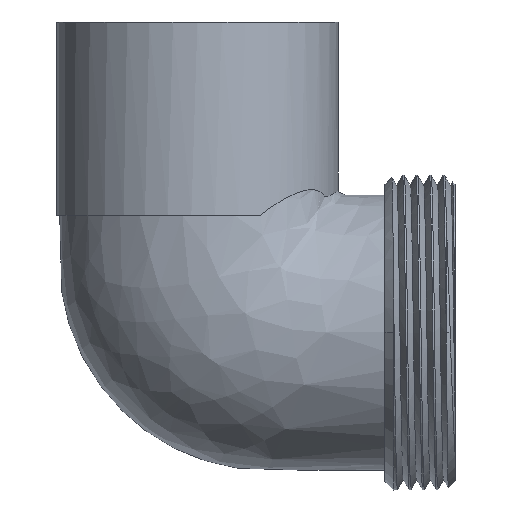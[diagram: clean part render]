
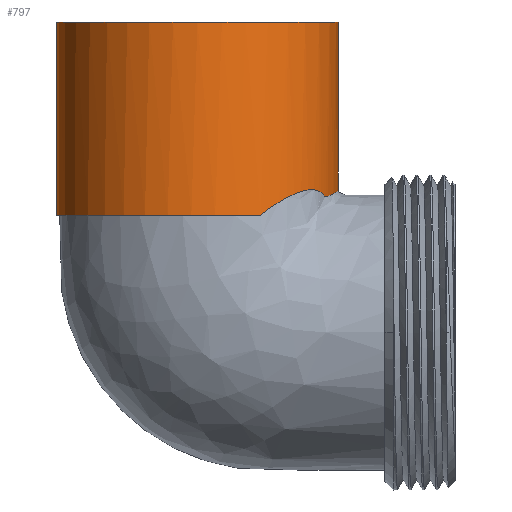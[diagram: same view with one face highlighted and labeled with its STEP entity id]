
A CAD part, top view. The second image highlights one B-rep face of the part: STEP entity #797.
In plain terms, the highlighted cylindrical face has radius 24 mm (diameter 48 mm), a partial arc.
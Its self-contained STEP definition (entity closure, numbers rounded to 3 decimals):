
#728 = ORIENTED_EDGE ( 'NONE', *, *, #729, .T. ) ;
#729 = EDGE_CURVE ( 'NONE', #798, #735, #1795, .T. ) ;
#730 = ORIENTED_EDGE ( 'NONE', *, *, #744, .F. ) ;
#731 = VERTEX_POINT ( 'NONE', #1791 ) ;
#732 = VERTEX_POINT ( 'NONE', #1790 ) ;
#733 = ORIENTED_EDGE ( 'NONE', *, *, #734, .F. ) ;
#734 = EDGE_CURVE ( 'NONE', #798, #732, #3237, .T. ) ;
#735 = VERTEX_POINT ( 'NONE', #3238 ) ;
#736 = ORIENTED_EDGE ( 'NONE', *, *, #737, .T. ) ;
#737 = EDGE_CURVE ( 'NONE', #747, #732, #3247, .T. ) ;
#744 = EDGE_CURVE ( 'NONE', #731, #735, #2000, .T. ) ;
#745 = ORIENTED_EDGE ( 'NONE', *, *, #746, .F. ) ;
#746 = EDGE_CURVE ( 'NONE', #747, #731, #2001, .T. ) ;
#747 = VERTEX_POINT ( 'NONE', #1993 ) ;
#797 = ADVANCED_FACE ( 'NONE', ( #2143 ), #2142, .T. ) ;
#798 = VERTEX_POINT ( 'NONE', #2197 ) ;
#938 = EDGE_LOOP ( 'NONE', ( #733, #728, #730, #745, #736 ) ) ;
#1790 = CARTESIAN_POINT ( 'NONE',  ( 10.79, 20., 21.438 ) ) ;
#1791 = CARTESIAN_POINT ( 'NONE',  ( -24., 53., 0. ) ) ;
#1792 = DIRECTION ( 'NONE',  ( 0., 1., 0. ) ) ;
#1793 = VECTOR ( 'NONE', #1792, 1000. ) ;
#1794 = CARTESIAN_POINT ( 'NONE',  ( 24., 53., 0. ) ) ;
#1795 = LINE ( 'NONE', #1794, #1793 ) ;
#1876 = CARTESIAN_POINT ( 'NONE',  ( 0., 53., 0. ) ) ;
#1993 = CARTESIAN_POINT ( 'NONE',  ( -24., 20., 0. ) ) ;
#1994 = DIRECTION ( 'NONE',  ( 0., 1., 0. ) ) ;
#1995 = VECTOR ( 'NONE', #1994, 1000. ) ;
#1996 = CARTESIAN_POINT ( 'NONE',  ( -24., 53., 0. ) ) ;
#1997 = DIRECTION ( 'NONE',  ( -1., 0., 0. ) ) ;
#1998 = DIRECTION ( 'NONE',  ( 0., 1., 0. ) ) ;
#1999 = AXIS2_PLACEMENT_3D ( 'NONE', #1876, #1998, #1997 ) ;
#2000 = CIRCLE ( 'NONE', #1999, 24. ) ;
#2001 = LINE ( 'NONE', #1996, #1995 ) ;
#2142 = CYLINDRICAL_SURFACE ( 'NONE', #2156, 24. ) ;
#2143 = FACE_OUTER_BOUND ( 'NONE', #938, .T. ) ;
#2153 = DIRECTION ( 'NONE',  ( -1., 0., 0. ) ) ;
#2154 = DIRECTION ( 'NONE',  ( 0., 1., 0. ) ) ;
#2155 = CARTESIAN_POINT ( 'NONE',  ( 0., 53., 0. ) ) ;
#2156 = AXIS2_PLACEMENT_3D ( 'NONE', #2155, #2154, #2153 ) ;
#2197 = CARTESIAN_POINT ( 'NONE',  ( 24., 24.178, 0. ) ) ;
#3194 = CARTESIAN_POINT ( 'NONE',  ( 13.683, 22.13, 19.724 ) ) ;
#3195 = CARTESIAN_POINT ( 'NONE',  ( 14.101, 22.389, 19.428 ) ) ;
#3196 = CARTESIAN_POINT ( 'NONE',  ( 14.927, 22.867, 18.801 ) ) ;
#3197 = CARTESIAN_POINT ( 'NONE',  ( 15.334, 23.087, 18.471 ) ) ;
#3198 = CARTESIAN_POINT ( 'NONE',  ( 16.135, 23.486, 17.775 ) ) ;
#3199 = CARTESIAN_POINT ( 'NONE',  ( 16.529, 23.664, 17.409 ) ) ;
#3200 = CARTESIAN_POINT ( 'NONE',  ( 17.111, 23.895, 16.832 ) ) ;
#3201 = CARTESIAN_POINT ( 'NONE',  ( 17.303, 23.966, 16.634 ) ) ;
#3202 = CARTESIAN_POINT ( 'NONE',  ( 17.684, 24.094, 16.228 ) ) ;
#3203 = CARTESIAN_POINT ( 'NONE',  ( 17.874, 24.151, 16.019 ) ) ;
#3204 = CARTESIAN_POINT ( 'NONE',  ( 18.431, 24.298, 15.382 ) ) ;
#3205 = CARTESIAN_POINT ( 'NONE',  ( 18.788, 24.364, 14.944 ) ) ;
#3206 = CARTESIAN_POINT ( 'NONE',  ( 19.303, 24.405, 14.265 ) ) ;
#3207 = CARTESIAN_POINT ( 'NONE',  ( 19.47, 24.41, 14.035 ) ) ;
#3208 = CARTESIAN_POINT ( 'NONE',  ( 19.799, 24.396, 13.568 ) ) ;
#3209 = CARTESIAN_POINT ( 'NONE',  ( 19.96, 24.378, 13.33 ) ) ;
#3210 = CARTESIAN_POINT ( 'NONE',  ( 20.428, 24.286, 12.611 ) ) ;
#3211 = CARTESIAN_POINT ( 'NONE',  ( 20.716, 24.176, 12.131 ) ) ;
#3212 = CARTESIAN_POINT ( 'NONE',  ( 21.113, 23.918, 11.416 ) ) ;
#3213 = CARTESIAN_POINT ( 'NONE',  ( 21.24, 23.817, 11.178 ) ) ;
#3214 = CARTESIAN_POINT ( 'NONE',  ( 21.42, 23.64, 10.826 ) ) ;
#3215 = CARTESIAN_POINT ( 'NONE',  ( 21.508, 23.546, 10.651 ) ) ;
#3216 = CARTESIAN_POINT ( 'NONE',  ( 21.591, 23.443, 10.479 ) ) ;
#3217 = CARTESIAN_POINT ( 'NONE',  ( 21.646, 23.372, 10.365 ) ) ;
#3218 = CARTESIAN_POINT ( 'NONE',  ( 21.673, 23.333, 10.31 ) ) ;
#3219 = CARTESIAN_POINT ( 'NONE',  ( 21.731, 23.286, 10.186 ) ) ;
#3220 = CARTESIAN_POINT ( 'NONE',  ( 21.762, 23.272, 10.12 ) ) ;
#3221 = CARTESIAN_POINT ( 'NONE',  ( 21.825, 23.253, 9.984 ) ) ;
#3222 = CARTESIAN_POINT ( 'NONE',  ( 21.856, 23.248, 9.916 ) ) ;
#3223 = CARTESIAN_POINT ( 'NONE',  ( 21.947, 23.24, 9.713 ) ) ;
#3224 = CARTESIAN_POINT ( 'NONE',  ( 22.007, 23.244, 9.577 ) ) ;
#3225 = CARTESIAN_POINT ( 'NONE',  ( 22.182, 23.267, 9.168 ) ) ;
#3226 = CARTESIAN_POINT ( 'NONE',  ( 22.293, 23.298, 8.893 ) ) ;
#3227 = CARTESIAN_POINT ( 'NONE',  ( 22.612, 23.403, 8.066 ) ) ;
#3228 = CARTESIAN_POINT ( 'NONE',  ( 22.803, 23.49, 7.509 ) ) ;
#3229 = CARTESIAN_POINT ( 'NONE',  ( 23.143, 23.658, 6.382 ) ) ;
#3230 = CARTESIAN_POINT ( 'NONE',  ( 23.293, 23.741, 5.811 ) ) ;
#3231 = CARTESIAN_POINT ( 'NONE',  ( 23.549, 23.888, 4.667 ) ) ;
#3232 = CARTESIAN_POINT ( 'NONE',  ( 23.656, 23.954, 4.092 ) ) ;
#3233 = CARTESIAN_POINT ( 'NONE',  ( 23.913, 24.116, 2.356 ) ) ;
#3234 = CARTESIAN_POINT ( 'NONE',  ( 24., 24.178, 1.185 ) ) ;
#3235 = CARTESIAN_POINT ( 'NONE',  ( 24., 24.178, 0. ) ) ;
#3236 = CARTESIAN_POINT ( 'NONE',  ( 0., 20., 0. ) ) ;
#3237 = B_SPLINE_CURVE_WITH_KNOTS ( 'NONE', 3,
 ( #3235, #3234, #3233, #3232, #3231, #3230, #3229, #3228, #3227, #3226, #3225, #3224, #3223, #3222, #3221, #3220, #3219, #3218, #3217, #3216, #3215, #3214, #3213, #3212, #3211, #3210, #3209, #3208, #3207, #3206, #3205, #3204, #3203, #3202, #3201, #3200, #3199, #3198, #3197, #3196, #3195, #3194, #3251, #3250, #3249 ),
 .UNSPECIFIED., .F., .F.,
 ( 4, 2, 2, 2, 2, 2, 2, 2, 2, 2, 1, 2, 2, 2, 2, 2, 2, 2, 2, 2, 2, 2, 4 ),
 ( 0.027, 0.03, 0.032, 0.034, 0.036, 0.036, 0.037, 0.037, 0.037, 0.037, 0.038, 0.038, 0.039, 0.041, 0.041, 0.042, 0.044, 0.045, 0.046, 0.047, 0.049, 0.051, 0.054 ),
 .UNSPECIFIED. ) ;
#3238 = CARTESIAN_POINT ( 'NONE',  ( 24., 53., 0. ) ) ;
#3244 = DIRECTION ( 'NONE',  ( -1., 0., 0. ) ) ;
#3245 = DIRECTION ( 'NONE',  ( 0., 1., 0. ) ) ;
#3246 = AXIS2_PLACEMENT_3D ( 'NONE', #3236, #3245, #3244 ) ;
#3247 = CIRCLE ( 'NONE', #3246, 24. ) ;
#3249 = CARTESIAN_POINT ( 'NONE',  ( 10.79, 20., 21.438 ) ) ;
#3250 = CARTESIAN_POINT ( 'NONE',  ( 11.603, 20.696, 21.029 ) ) ;
#3251 = CARTESIAN_POINT ( 'NONE',  ( 12.435, 21.308, 20.552 ) ) ;
